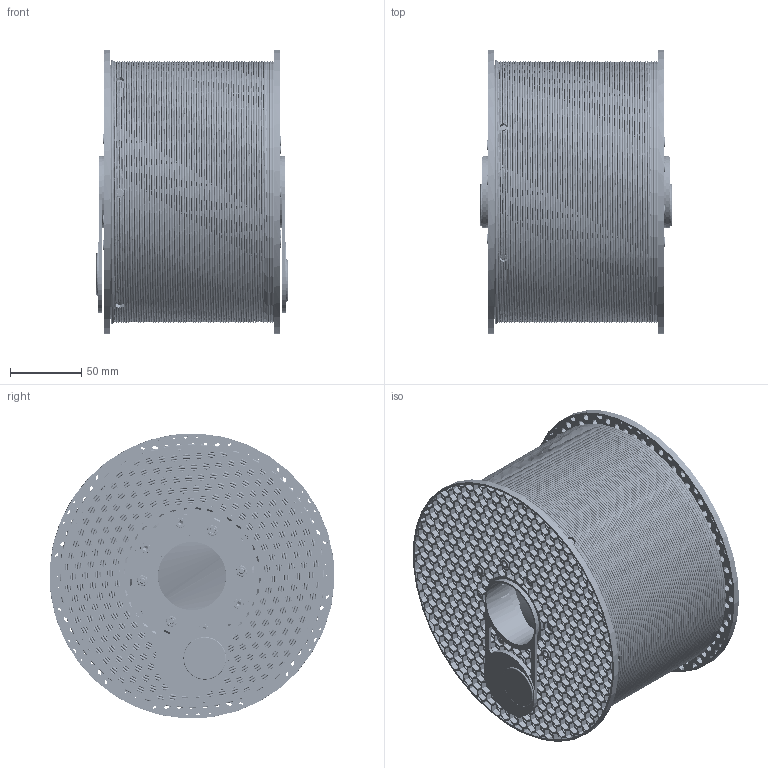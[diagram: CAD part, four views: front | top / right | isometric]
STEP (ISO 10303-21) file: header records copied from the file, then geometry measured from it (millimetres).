
FILE_DESCRIPTION(/* description */ ('Alibre Inc.'),/* implementation_level */ '2;1');
FILE_NAME(/* name */ 'export-51800B90-8301-479B-B417-F880924F8188',/* time_stamp */ '2026-02-03T09:41:51+00:00',/* author */ (''),/* organization */ (''),/* preprocessor_version */ 'ST-DEVELOPER v17',/* originating_system */ 'Alibre',/* authorisation */ '');
FILE_SCHEMA (('CONFIG_CONTROL_DESIGN'));
Products named in the file (99): InternalInvoluteGear; BNO080; 74AHC4050; PCB Component; Body
Bounding box: 134.2 x 199.97 x 199.94 mm (x, y, z)
Volume: 1376368.2 mm3; surface area: 956335 mm2
Topology: 205 solids, 205 shells, 24418 faces, 63826 edges, 40727 vertices
Faces by surface type: plane 16780, cylinder 3588, bspline 2383, cone 1195, torus 469, revolution 3
Full cylindrical faces by diameter (mm): 1.3 x1, 2 x4, 2.459 x7, 2.5 x1, 2.8 x3, 3 x41, 3.2 x6, 3.242 x16, 3.3 x18, 3.4 x26, 3.5 x35, 4 x29, 4.2 x8, 4.3 x16, 4.4 x8, 4.5 x35, 4.7 x12, 5.7 x23, 5.8 x5, 6 x16, 6.5 x1, 7 x17, 7.3 x2, 8 x11, 9 x2, 10 x10, 12 x4, 19.3 x2, 23 x10, 26 x2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
Entity records: 692505 total; most frequent: CARTESIAN_POINT 353537, ORIENTED_EDGE 71920, DIRECTION 53762, EDGE_CURVE 35960, VECTOR 27192, LINE 27192, VERTEX_POINT 23177, AXIS2_PLACEMENT_3D 17846
